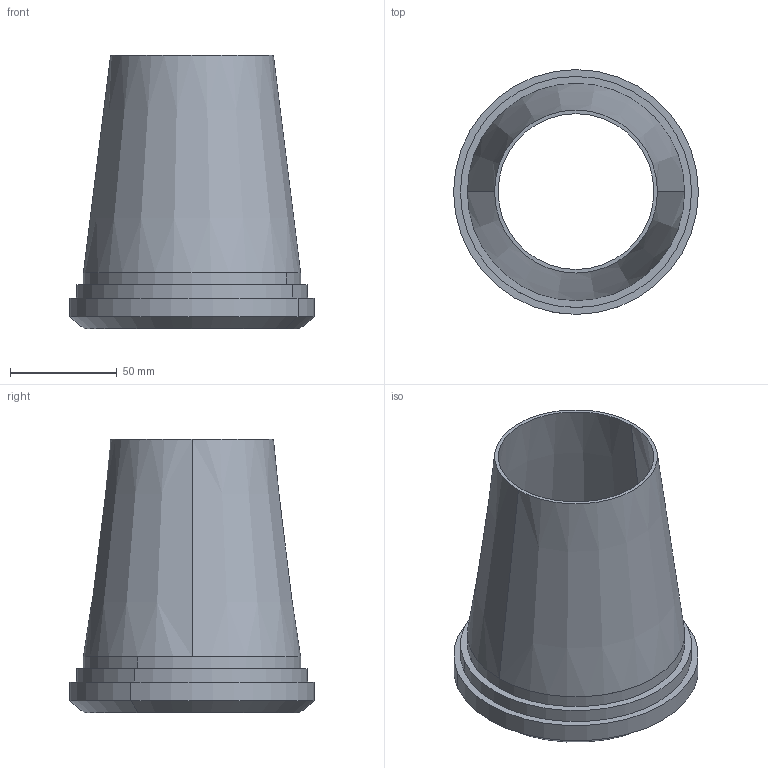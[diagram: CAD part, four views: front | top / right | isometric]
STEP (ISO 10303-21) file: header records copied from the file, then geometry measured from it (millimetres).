
FILE_DESCRIPTION (( 'STEP AP203' ), '1' );
FILE_NAME ('E31PW 4.0X3.0.STEP', '2021-10-18T19:32:39', ( '' ), ( '' ), 'SwSTEP 2.0', 'SolidWorks 2021', '' );
FILE_SCHEMA (( 'CONFIG_CONTROL_DESIGN' ));
Length unit declared in the file: inch
Products named in the file (3): E31PW 4.0X3.0; E31WW4.0x3.0; 14PR4.0
Assembly tree (2 placements, depth 2):
  E31PW 4.0X3.0
    E31WW4.0x3.0
    14PR4.0
Bounding box: 114.5 x 114.5 x 127.79 mm (x, y, z)
Volume: 95125.5 mm3; surface area: 78481.9 mm2
Topology: 2 solids, 2 shells, 20 faces, 40 edges, 26 vertices
Faces by surface type: cylinder 8, cone 6, plane 6
Entity records: 853 total; most frequent: DIRECTION 116, CARTESIAN_POINT 91, ORIENTED_EDGE 80, AXIS2_PLACEMENT_3D 51, EDGE_CURVE 40, PERSON_AND_ORGANIZATION 26, VERTEX_POINT 26, CIRCLE 26
